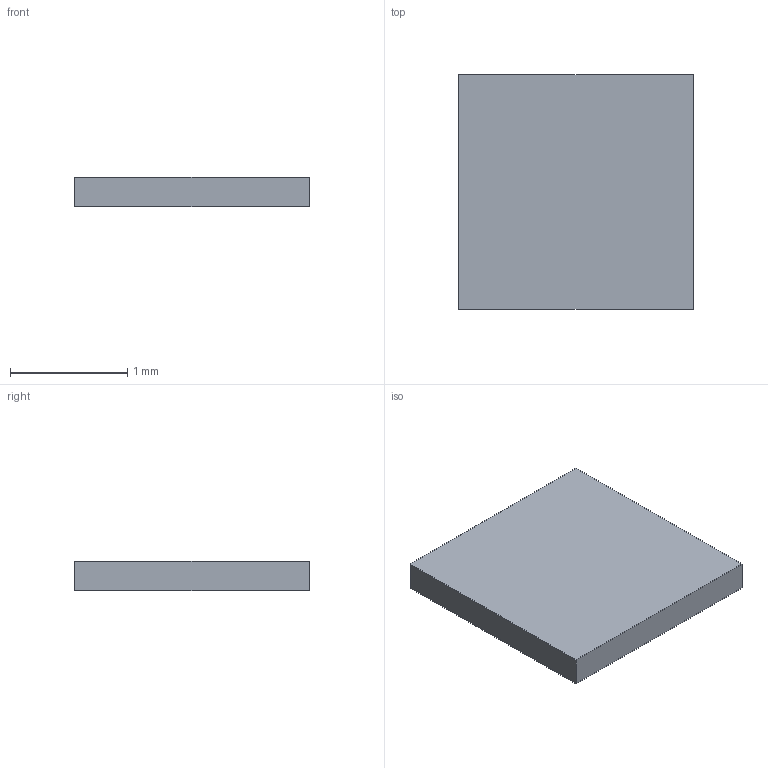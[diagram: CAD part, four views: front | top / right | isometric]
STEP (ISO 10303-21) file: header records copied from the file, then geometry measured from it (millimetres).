
FILE_DESCRIPTION(('Open CASCADE Model'),'2;1');
FILE_NAME('Open CASCADE Shape Model','2026-09-13T17:41:40',('Author'),( 'Open CASCADE'),'Open CASCADE STEP processor 7.8','Open CASCADE 7.8' ,'Unknown');
FILE_SCHEMA(('AUTOMOTIVE_DESIGN { 1 0 10303 214 1 1 1 1 }'));
Length unit declared in the file: millimetre
Products named in the file (1): Open CASCADE STEP translator 7.8 17
Bounding box: 2 x 2 x 0.25 mm (x, y, z)
Volume: 1 mm3; surface area: 10 mm2
Topology: 1 solids, 1 shells, 6 faces, 12 edges, 8 vertices
Faces by surface type: plane 6
Entity records: 322 total; most frequent: CARTESIAN_POINT 51, DIRECTION 50, LINE 36, VECTOR 36, ORIENTED_EDGE 24, PCURVE 24, DEFINITIONAL_REPRESENTATION 24, EDGE_CURVE 12
